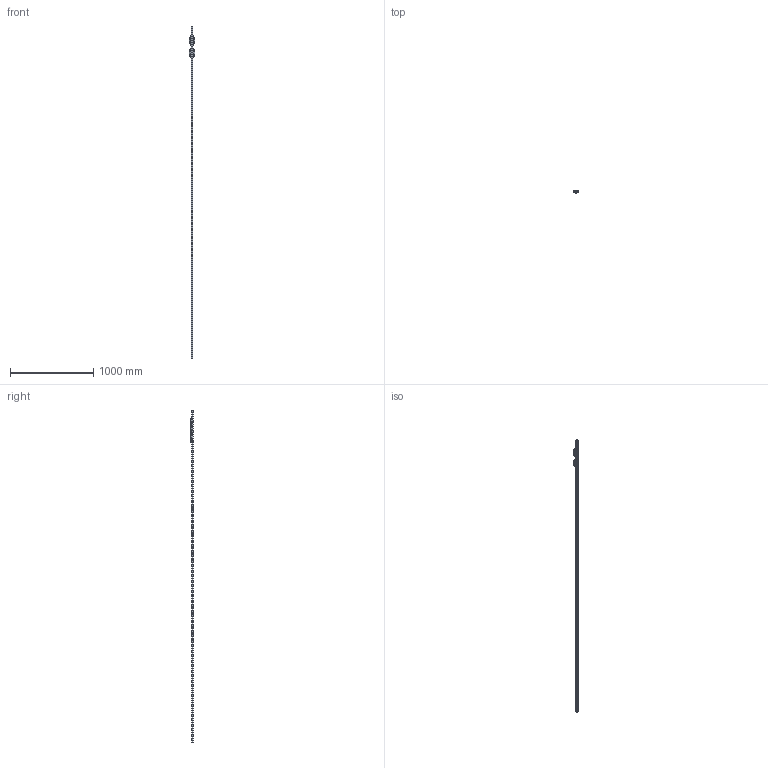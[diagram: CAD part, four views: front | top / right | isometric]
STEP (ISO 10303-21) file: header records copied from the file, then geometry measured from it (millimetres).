
FILE_DESCRIPTION((''),'2;1');
FILE_NAME('ASM0023_ASM','2020-11-24T14:18:27',('TWVS2025'),(''),'CREO PARAMETRIC BY PTC INC, 2018420','CREO PARAMETRIC BY PTC INC, 2018420','');
FILE_SCHEMA(('CONFIG_CONTROL_DESIGN'));
Products named in the file (6): BRR25_CUSTOMER_1_1_1_2_3_1_1; BC-BRC25-LA-ASM_ASM_1_ASM_1_1; BC-BRD25-LA-ASM_ASM_1_ASM_1_1; BRS25-LA_CUSTOMER_ASM_ASM_1_A_1_ASM; BRS25-LA_CUSTOMER_ASM_ASM_ASM_2_ASM; ASM0023_ASM
Assembly tree (5 placements, depth 4):
  ASM0023_ASM
    BRS25-LA_CUSTOMER_ASM_ASM_ASM_2_ASM
      BRS25-LA_CUSTOMER_ASM_ASM_1_A_1_ASM
        BRR25_CUSTOMER_1_1_1_2_3_1_1
        BC-BRC25-LA-ASM_ASM_1_ASM_1_1
        BC-BRD25-LA-ASM_ASM_1_ASM_1_1
Bounding box: 69.95 x 36 x 4000 mm (x, y, z)
Volume: 1684097.1 mm3; surface area: 507632.6 mm2
Topology: 1 solids, 13 shells, 4549 faces, 12936 edges, 8536 vertices
Faces by surface type: plane 2527, cylinder 1358, bspline 246, cone 192, torus 120, sphere 106
Entity records: 217205 total; most frequent: CARTESIAN_POINT 101335, ORIENTED_EDGE 25608, DIRECTION 21781, EDGE_CURVE 12884, VERTEX_POINT 8532, VECTOR 7891, LINE 7891, AXIS2_PLACEMENT_3D 6945
